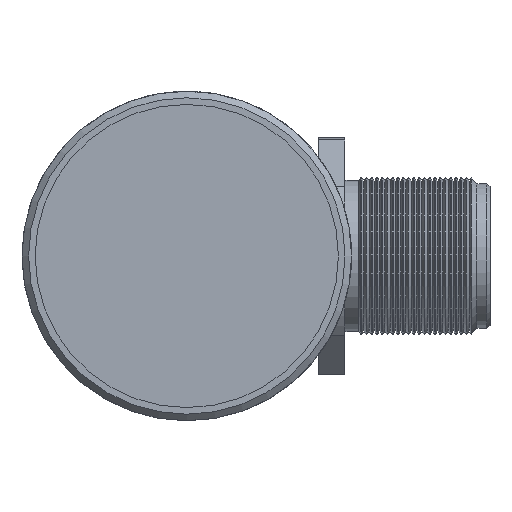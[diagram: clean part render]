
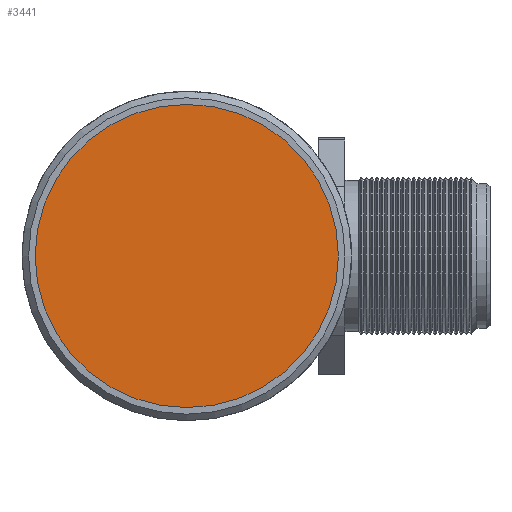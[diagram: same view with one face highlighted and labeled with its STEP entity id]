
A CAD part, left-side view. The second image highlights one B-rep face of the part: STEP entity #3441.
In plain terms, the highlighted planar face has unit normal (-1, 0, 0).
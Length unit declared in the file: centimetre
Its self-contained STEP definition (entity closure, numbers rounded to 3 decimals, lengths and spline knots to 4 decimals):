
#433=PLANE('',#3713);
#833=VERTEX_POINT('',#4095);
#1144=CIRCLE('',#3712,1.15);
#1315=EDGE_CURVE('',#833,#833,#1144,.T.);
#1789=ORIENTED_EDGE('',*,*,#1315,.T.);
#2702=EDGE_LOOP('',(#1789));
#3076=FACE_BOUND('',#2702,.T.);
#3441=ADVANCED_FACE('',(#3076),#433,.F.);
#3712=AXIS2_PLACEMENT_3D('',#4094,#6357,#6358);
#3713=AXIS2_PLACEMENT_3D('',#4096,#6359,$);
#4094=CARTESIAN_POINT('',(-3.8,0.,0.));
#4095=CARTESIAN_POINT('',(-3.8,0.,-1.15));
#4096=CARTESIAN_POINT('',(-3.8,0.,0.));
#6357=DIRECTION('',(-1.,0.,0.));
#6358=DIRECTION('',(0.,0.,-1.15));
#6359=DIRECTION('',(1.,0.,0.));
